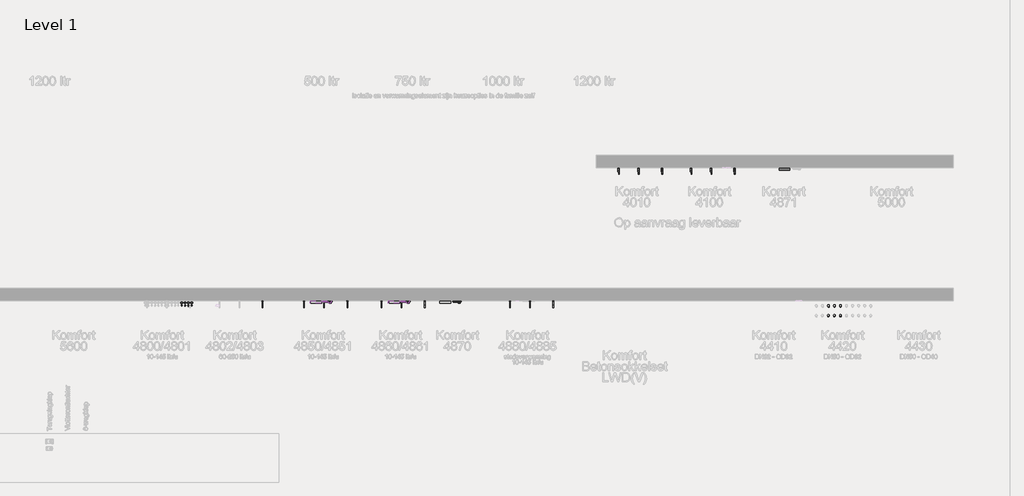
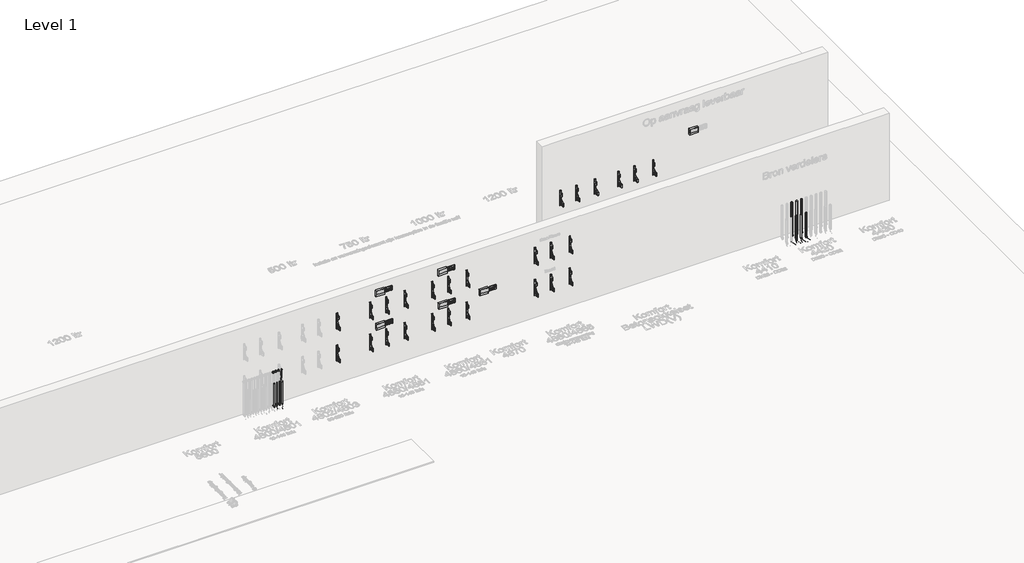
# One storey, part 8 of 34: 37 proxies, 25 pipe fittings, 24 pipe segments.
"""IFC4 building model written with IfcOpenShell, lengths in millimetres."""

from ifc_helpers import new_model, si_unit, point, frame, frame_2d, origin, place, context, project, spatial, circle_curve, trimmed, segment, composite_curve, outline, extrude, transform, mapped, element, save
from components import mechanical_equipment_e809440a, electrical_fixtures_0267594b, electrical_fixtures_cdb00edd, mechanical_equipment_2487834e, pipe_fitting_01076926, comfort_pipe_plus_d9ac523e, comfort_pipe_plus_d8c71379, comfort_pipe_plus_e869fb8a, curved_elbow_default_c54697c8, curved_elbow_default_545ca236

model = new_model("IFC4")

# Units and contexts
model_context = context("Model", 3, world=origin())
ifc_project = project(units=[si_unit("LENGTHUNIT", "METRE", prefix="MILLI")], contexts=[model_context])

# Site, building, storey
site = spatial("IfcSite", under=ifc_project)
building = spatial("IfcBuilding", under=site)
storey = spatial("IfcBuildingStorey", under=building, Name="Level 1", Elevation=0.0)

# Proxies
placement = place(None, origin())
mechanical_equipment_shape = mechanical_equipment_e809440a(model_context)
element("IfcBuildingElementProxy", 1, Name="400_56_KOMF_montagebeugel_2 : 400_56_KOMF_montagebeugel_2", ObjectType="400_56_KOMF_montagebeugel_2 : 400_56_KOMF_montagebeugel_2", at=placement, inside=storey, context=model_context, shape_type="MappedRepresentation", body=[
    mapped(mechanical_equipment_shape, transform((-8621.6827235, 7589.9863889, 1200.0), x_axis=(1.0, 0.0, 0.0), y_axis=(0.0, 0.0, 1.0), z_axis=(0.0, -1.0, 0.0))),
])
element("IfcBuildingElementProxy", 2, Name="400_56_KOMF_montagebeugel_2 : 400_56_KOMF_montagebeugel_2", ObjectType="400_56_KOMF_montagebeugel_2 : 400_56_KOMF_montagebeugel_2", at=placement, inside=storey, context=model_context, shape_type="MappedRepresentation", body=[
    mapped(mechanical_equipment_shape, transform((-8621.6827235, 7589.9863889, 500.0), x_axis=(1.0, 0.0, 0.0), y_axis=(0.0, 0.0, 1.0), z_axis=(0.0, -1.0, 0.0))),
])
element("IfcBuildingElementProxy", 3, Name="400_56_KOMF_montagebeugel_2 : 400_56_KOMF_montagebeugel_2", ObjectType="400_56_KOMF_montagebeugel_2 : 400_56_KOMF_montagebeugel_2", at=placement, inside=storey, context=model_context, shape_type="MappedRepresentation", body=[
    mapped(mechanical_equipment_shape, transform((-4531.8361822, 7589.9863889, 500.0), x_axis=(1.0, 0.0, 0.0), y_axis=(0.0, 0.0, 1.0), z_axis=(0.0, -1.0, 0.0))),
])
element("IfcBuildingElementProxy", 4, Name="400_56_KOMF_montagebeugel_2 : 400_56_KOMF_montagebeugel_2", ObjectType="400_56_KOMF_montagebeugel_2 : 400_56_KOMF_montagebeugel_2", at=placement, inside=storey, context=model_context, shape_type="MappedRepresentation", body=[
    mapped(mechanical_equipment_shape, transform((-4201.8361822, 7589.9863889, 500.0), x_axis=(1.0, 0.0, 0.0), y_axis=(0.0, 0.0, 1.0), z_axis=(0.0, -1.0, 0.0))),
])
element("IfcBuildingElementProxy", 5, Name="400_56_KOMF_montagebeugel_2 : 400_56_KOMF_montagebeugel_2", ObjectType="400_56_KOMF_montagebeugel_2 : 400_56_KOMF_montagebeugel_2", at=placement, inside=storey, context=model_context, shape_type="MappedRepresentation", body=[
    mapped(mechanical_equipment_shape, transform((-3816.8361822, 7589.9863889, 500.0), x_axis=(1.0, 0.0, 0.0), y_axis=(0.0, 0.0, 1.0), z_axis=(0.0, -1.0, 0.0))),
])
element("IfcBuildingElementProxy", 6, Name="400_56_KOMF_montagebeugel_2 : 400_56_KOMF_montagebeugel_2", ObjectType="400_56_KOMF_montagebeugel_2 : 400_56_KOMF_montagebeugel_2", at=placement, inside=storey, context=model_context, shape_type="MappedRepresentation", body=[
    mapped(mechanical_equipment_shape, transform((-4531.8361822, 7589.9863889, 1200.0), x_axis=(1.0, 0.0, 0.0), y_axis=(0.0, 0.0, 1.0), z_axis=(0.0, -1.0, 0.0))),
])
element("IfcBuildingElementProxy", 7, Name="400_56_KOMF_montagebeugel_2 : 400_56_KOMF_montagebeugel_2", ObjectType="400_56_KOMF_montagebeugel_2 : 400_56_KOMF_montagebeugel_2", at=placement, inside=storey, context=model_context, shape_type="MappedRepresentation", body=[
    mapped(mechanical_equipment_shape, transform((-4201.8361822, 7589.9863889, 1200.0), x_axis=(1.0, 0.0, 0.0), y_axis=(0.0, 0.0, 1.0), z_axis=(0.0, -1.0, 0.0))),
])
element("IfcBuildingElementProxy", 8, Name="400_56_KOMF_montagebeugel_2 : 400_56_KOMF_montagebeugel_2", ObjectType="400_56_KOMF_montagebeugel_2 : 400_56_KOMF_montagebeugel_2", at=placement, inside=storey, context=model_context, shape_type="MappedRepresentation", body=[
    mapped(mechanical_equipment_shape, transform((-3816.8361822, 7589.9863889, 1200.0), x_axis=(1.0, 0.0, 0.0), y_axis=(0.0, 0.0, 1.0), z_axis=(0.0, -1.0, 0.0))),
])
element("IfcBuildingElementProxy", 9, Name="400_56_KOMF_montagebeugel_2 : 400_56_KOMF_montagebeugel_2", ObjectType="400_56_KOMF_montagebeugel_2 : 400_56_KOMF_montagebeugel_2", at=placement, inside=storey, context=model_context, shape_type="MappedRepresentation", body=[
    mapped(mechanical_equipment_shape, transform((-6656.6827235, 7589.9863889, 1200.0), x_axis=(1.0, 0.0, 0.0), y_axis=(0.0, 0.0, 1.0), z_axis=(0.0, -1.0, 0.0))),
])
element("IfcBuildingElementProxy", 10, Name="400_56_KOMF_montagebeugel_2 : 400_56_KOMF_montagebeugel_2", ObjectType="400_56_KOMF_montagebeugel_2 : 400_56_KOMF_montagebeugel_2", at=placement, inside=storey, context=model_context, shape_type="MappedRepresentation", body=[
    mapped(mechanical_equipment_shape, transform((-6326.6827235, 7589.9863889, 1200.0), x_axis=(1.0, 0.0, 0.0), y_axis=(0.0, 0.0, 1.0), z_axis=(0.0, -1.0, 0.0))),
])
element("IfcBuildingElementProxy", 11, Name="400_56_KOMF_montagebeugel_2 : 400_56_KOMF_montagebeugel_2", ObjectType="400_56_KOMF_montagebeugel_2 : 400_56_KOMF_montagebeugel_2", at=placement, inside=storey, context=model_context, shape_type="MappedRepresentation", body=[
    mapped(mechanical_equipment_shape, transform((-5941.6827235, 7589.9863889, 1200.0), x_axis=(1.0, 0.0, 0.0), y_axis=(0.0, 0.0, 1.0), z_axis=(0.0, -1.0, 0.0))),
])
element("IfcBuildingElementProxy", 12, Name="400_56_KOMF_montagebeugel_2 : 400_56_KOMF_montagebeugel_2", ObjectType="400_56_KOMF_montagebeugel_2 : 400_56_KOMF_montagebeugel_2", at=placement, inside=storey, context=model_context, shape_type="MappedRepresentation", body=[
    mapped(mechanical_equipment_shape, transform((-6656.6827235, 7589.9863889, 500.0), x_axis=(1.0, 0.0, 0.0), y_axis=(0.0, 0.0, 1.0), z_axis=(0.0, -1.0, 0.0))),
])
element("IfcBuildingElementProxy", 13, Name="400_56_KOMF_montagebeugel_2 : 400_56_KOMF_montagebeugel_2", ObjectType="400_56_KOMF_montagebeugel_2 : 400_56_KOMF_montagebeugel_2", at=placement, inside=storey, context=model_context, shape_type="MappedRepresentation", body=[
    mapped(mechanical_equipment_shape, transform((-6326.6827235, 7589.9863889, 500.0), x_axis=(1.0, 0.0, 0.0), y_axis=(0.0, 0.0, 1.0), z_axis=(0.0, -1.0, 0.0))),
])
element("IfcBuildingElementProxy", 14, Name="400_56_KOMF_montagebeugel_2 : 400_56_KOMF_montagebeugel_2", ObjectType="400_56_KOMF_montagebeugel_2 : 400_56_KOMF_montagebeugel_2", at=placement, inside=storey, context=model_context, shape_type="MappedRepresentation", body=[
    mapped(mechanical_equipment_shape, transform((-5941.6827235, 7589.9863889, 500.0), x_axis=(1.0, 0.0, 0.0), y_axis=(0.0, 0.0, 1.0), z_axis=(0.0, -1.0, 0.0))),
])
element("IfcBuildingElementProxy", 15, Name="400_56_KOMF_montagebeugel_2 : 400_56_KOMF_montagebeugel_2", ObjectType="400_56_KOMF_montagebeugel_2 : 400_56_KOMF_montagebeugel_2", at=placement, inside=storey, context=model_context, shape_type="MappedRepresentation", body=[
    mapped(mechanical_equipment_shape, transform((-7936.6827235, 7589.9863889, 1200.0), x_axis=(1.0, 0.0, 0.0), y_axis=(0.0, 0.0, 1.0), z_axis=(0.0, -1.0, 0.0))),
])
element("IfcBuildingElementProxy", 16, Name="400_56_KOMF_montagebeugel_2 : 400_56_KOMF_montagebeugel_2", ObjectType="400_56_KOMF_montagebeugel_2 : 400_56_KOMF_montagebeugel_2", at=placement, inside=storey, context=model_context, shape_type="MappedRepresentation", body=[
    mapped(mechanical_equipment_shape, transform((-7606.6827235, 7589.9863889, 1200.0), x_axis=(1.0, 0.0, 0.0), y_axis=(0.0, 0.0, 1.0), z_axis=(0.0, -1.0, 0.0))),
])
element("IfcBuildingElementProxy", 17, Name="400_56_KOMF_montagebeugel_2 : 400_56_KOMF_montagebeugel_2", ObjectType="400_56_KOMF_montagebeugel_2 : 400_56_KOMF_montagebeugel_2", at=placement, inside=storey, context=model_context, shape_type="MappedRepresentation", body=[
    mapped(mechanical_equipment_shape, transform((-7221.6827235, 7589.9863889, 1200.0), x_axis=(1.0, 0.0, 0.0), y_axis=(0.0, 0.0, 1.0), z_axis=(0.0, -1.0, 0.0))),
])
element("IfcBuildingElementProxy", 18, Name="400_56_KOMF_montagebeugel_2 : 400_56_KOMF_montagebeugel_2", ObjectType="400_56_KOMF_montagebeugel_2 : 400_56_KOMF_montagebeugel_2", at=placement, inside=storey, context=model_context, shape_type="MappedRepresentation", body=[
    mapped(mechanical_equipment_shape, transform((-7936.6827235, 7589.9863889, 500.0), x_axis=(1.0, 0.0, 0.0), y_axis=(0.0, 0.0, 1.0), z_axis=(0.0, -1.0, 0.0))),
])
element("IfcBuildingElementProxy", 19, Name="400_56_KOMF_montagebeugel_2 : 400_56_KOMF_montagebeugel_2", ObjectType="400_56_KOMF_montagebeugel_2 : 400_56_KOMF_montagebeugel_2", at=placement, inside=storey, context=model_context, shape_type="MappedRepresentation", body=[
    mapped(mechanical_equipment_shape, transform((-7606.6827235, 7589.9863889, 500.0), x_axis=(1.0, 0.0, 0.0), y_axis=(0.0, 0.0, 1.0), z_axis=(0.0, -1.0, 0.0))),
])
element("IfcBuildingElementProxy", 20, Name="400_56_KOMF_montagebeugel_2 : 400_56_KOMF_montagebeugel_2", ObjectType="400_56_KOMF_montagebeugel_2 : 400_56_KOMF_montagebeugel_2", at=placement, inside=storey, context=model_context, shape_type="MappedRepresentation", body=[
    mapped(mechanical_equipment_shape, transform((-7221.6827235, 7589.9863889, 500.0), x_axis=(1.0, 0.0, 0.0), y_axis=(0.0, 0.0, 1.0), z_axis=(0.0, -1.0, 0.0))),
])
electrical_fixtures_shape = electrical_fixtures_0267594b(model_context)
element("IfcBuildingElementProxy", 21, Name="400_5-_KOMF_optimizer : Optimizer", ObjectType="400_5-_KOMF_optimizer : Optimizer", at=placement, inside=storey, context=model_context, shape_type="MappedRepresentation", body=[
    mapped(electrical_fixtures_shape, transform((-7834.0955637, 7589.9863889, 1629.4731013), x_axis=(1.0, 0.0, 0.0), y_axis=(0.0, 0.0, 1.0), z_axis=(0.0, -1.0, 0.0))),
])
element("IfcBuildingElementProxy", 22, Name="400_5-_KOMF_optimizer : Optimizer", ObjectType="400_5-_KOMF_optimizer : Optimizer", at=placement, inside=storey, context=model_context, shape_type="MappedRepresentation", body=[
    mapped(electrical_fixtures_shape, transform((-6544.0955637, 7589.9863889, 1629.4731013), x_axis=(1.0, 0.0, 0.0), y_axis=(0.0, 0.0, 1.0), z_axis=(0.0, -1.0, 0.0))),
])
element("IfcBuildingElementProxy", 23, Name="400_5-_KOMF_optimizer : Optimizer", ObjectType="400_5-_KOMF_optimizer : Optimizer", at=placement, inside=storey, context=model_context, shape_type="MappedRepresentation", body=[
    mapped(electrical_fixtures_shape, transform((-5689.3577971, 7589.9863889, 899.4731013), x_axis=(1.0, 0.0, 0.0), y_axis=(0.0, 0.0, 1.0), z_axis=(0.0, -1.0, 0.0))),
])
element("IfcBuildingElementProxy", 24, Name="400_5-_KOMF_optimizer : Optimizer", ObjectType="400_5-_KOMF_optimizer : Optimizer", at=placement, inside=storey, context=model_context, shape_type="MappedRepresentation", body=[
    mapped(electrical_fixtures_shape, transform((-7822.0066845, 7589.9863889, 899.4731013), x_axis=(1.0, 0.0, 0.0), y_axis=(0.0, 0.0, 1.0), z_axis=(0.0, -1.0, 0.0))),
])
element("IfcBuildingElementProxy", 25, Name="400_5-_KOMF_optimizer : Optimizer", ObjectType="400_5-_KOMF_optimizer : Optimizer", at=placement, inside=storey, context=model_context, shape_type="MappedRepresentation", body=[
    mapped(electrical_fixtures_shape, transform((-6532.0066845, 7589.9863889, 899.4731013), x_axis=(1.0, 0.0, 0.0), y_axis=(0.0, 0.0, 1.0), z_axis=(0.0, -1.0, 0.0))),
])
element("IfcBuildingElementProxy", 26, Name="400_5-_KOMF_optimizer : Optimizer", ObjectType="400_5-_KOMF_optimizer : Optimizer", at=placement, inside=storey, context=model_context, shape_type="MappedRepresentation", body=[
    mapped(electrical_fixtures_shape, transform((-84.0955637, 9789.9863889, 1111.4248649), x_axis=(1.0, 0.0, 0.0), y_axis=(0.0, 0.0, 1.0), z_axis=(0.0, -1.0, 0.0))),
])
electrical_fixtures_2_shape = electrical_fixtures_cdb00edd(model_context)
element("IfcBuildingElementProxy", 27, Name="400_5-_KOMF_optimizer_bediening : Optimizer bediening", ObjectType="400_5-_KOMF_optimizer_bediening : Optimizer bediening", at=placement, inside=storey, context=model_context, shape_type="MappedRepresentation", body=[
    mapped(electrical_fixtures_2_shape, transform((-7624.0955637, 7589.9863889, 1654.2230825), x_axis=(1.0, 0.0, 0.0), y_axis=(0.0, 0.0, 1.0), z_axis=(0.0, -1.0, 0.0))),
])
element("IfcBuildingElementProxy", 28, Name="400_5-_KOMF_optimizer_bediening : Optimizer bediening", ObjectType="400_5-_KOMF_optimizer_bediening : Optimizer bediening", at=placement, inside=storey, context=model_context, shape_type="MappedRepresentation", body=[
    mapped(electrical_fixtures_2_shape, transform((-6334.0955637, 7589.9863889, 1654.2230825), x_axis=(1.0, 0.0, 0.0), y_axis=(0.0, 0.0, 1.0), z_axis=(0.0, -1.0, 0.0))),
])
element("IfcBuildingElementProxy", 29, Name="400_5-_KOMF_optimizer_bediening : Optimizer bediening", ObjectType="400_5-_KOMF_optimizer_bediening : Optimizer bediening", at=placement, inside=storey, context=model_context, shape_type="MappedRepresentation", body=[
    mapped(electrical_fixtures_2_shape, transform((-5479.3577971, 7589.9863889, 924.2230825), x_axis=(1.0, 0.0, 0.0), y_axis=(0.0, 0.0, 1.0), z_axis=(0.0, -1.0, 0.0))),
])
element("IfcBuildingElementProxy", 30, Name="400_5-_KOMF_optimizer_bediening : Optimizer bediening", ObjectType="400_5-_KOMF_optimizer_bediening : Optimizer bediening", at=placement, inside=storey, context=model_context, shape_type="MappedRepresentation", body=[
    mapped(electrical_fixtures_2_shape, transform((-7612.0066845, 7589.9863889, 924.2230825), x_axis=(1.0, 0.0, 0.0), y_axis=(0.0, 0.0, 1.0), z_axis=(0.0, -1.0, 0.0))),
])
element("IfcBuildingElementProxy", 31, Name="400_5-_KOMF_optimizer_bediening : Optimizer bediening", ObjectType="400_5-_KOMF_optimizer_bediening : Optimizer bediening", at=placement, inside=storey, context=model_context, shape_type="MappedRepresentation", body=[
    mapped(electrical_fixtures_2_shape, transform((-6322.0066845, 7589.9863889, 924.2230825), x_axis=(1.0, 0.0, 0.0), y_axis=(0.0, 0.0, 1.0), z_axis=(0.0, -1.0, 0.0))),
])
mechanical_equipment_2_shape = mechanical_equipment_2487834e(model_context)
element("IfcBuildingElementProxy", 32, Name="400_56_KOMF_montagebeugel : 400_56_KOMF_montagebeugel", ObjectType="400_56_KOMF_montagebeugel : 400_56_KOMF_montagebeugel", at=placement, inside=storey, context=model_context, shape_type="MappedRepresentation", body=[
    mapped(mechanical_equipment_2_shape, transform((-2737.0989887, 9789.9863889, 500.0), x_axis=(1.0, 0.0, 0.0), y_axis=(0.0, 0.0, 1.0), z_axis=(0.0, -1.0, 0.0))),
])
element("IfcBuildingElementProxy", 33, Name="400_56_KOMF_montagebeugel : 400_56_KOMF_montagebeugel", ObjectType="400_56_KOMF_montagebeugel : 400_56_KOMF_montagebeugel", at=placement, inside=storey, context=model_context, shape_type="MappedRepresentation", body=[
    mapped(mechanical_equipment_2_shape, transform((-2407.0989887, 9789.9863889, 500.0), x_axis=(1.0, 0.0, 0.0), y_axis=(0.0, 0.0, 1.0), z_axis=(0.0, -1.0, 0.0))),
])
element("IfcBuildingElementProxy", 34, Name="400_56_KOMF_montagebeugel : 400_56_KOMF_montagebeugel", ObjectType="400_56_KOMF_montagebeugel : 400_56_KOMF_montagebeugel", at=placement, inside=storey, context=model_context, shape_type="MappedRepresentation", body=[
    mapped(mechanical_equipment_2_shape, transform((-2022.0989887, 9789.9863889, 500.0), x_axis=(1.0, 0.0, 0.0), y_axis=(0.0, 0.0, 1.0), z_axis=(0.0, -1.0, 0.0))),
])
element("IfcBuildingElementProxy", 35, Name="400_56_KOMF_montagebeugel : 400_56_KOMF_montagebeugel", ObjectType="400_56_KOMF_montagebeugel : 400_56_KOMF_montagebeugel", at=placement, inside=storey, context=model_context, shape_type="MappedRepresentation", body=[
    mapped(mechanical_equipment_2_shape, transform((-1537.0989887, 9789.9863889, 500.0), x_axis=(1.0, 0.0, 0.0), y_axis=(0.0, 0.0, 1.0), z_axis=(0.0, -1.0, 0.0))),
])
element("IfcBuildingElementProxy", 36, Name="400_56_KOMF_montagebeugel : 400_56_KOMF_montagebeugel", ObjectType="400_56_KOMF_montagebeugel : 400_56_KOMF_montagebeugel", at=placement, inside=storey, context=model_context, shape_type="MappedRepresentation", body=[
    mapped(mechanical_equipment_2_shape, transform((-1207.0989887, 9789.9863889, 500.0), x_axis=(1.0, 0.0, 0.0), y_axis=(0.0, 0.0, 1.0), z_axis=(0.0, -1.0, 0.0))),
])
element("IfcBuildingElementProxy", 37, Name="400_56_KOMF_montagebeugel : 400_56_KOMF_montagebeugel", ObjectType="400_56_KOMF_montagebeugel : 400_56_KOMF_montagebeugel", at=placement, inside=storey, context=model_context, shape_type="MappedRepresentation", body=[
    mapped(mechanical_equipment_2_shape, transform((-822.0989887, 9789.9863889, 500.0), x_axis=(1.0, 0.0, 0.0), y_axis=(0.0, 0.0, 1.0), z_axis=(0.0, -1.0, 0.0))),
])

# Pipe fittings
pipe_fitting_shape = pipe_fitting_01076926(model_context)
element("IfcPipeFitting", 38, ObjectType="400_5-_Uponor Vario klemringschroefkoppeling Euro : klemringschroefkoppeling s=2mm", at=placement, inside=storey, context=model_context, shape_type="MappedRepresentation", body=[
    mapped(pipe_fitting_shape, transform((-9959.1827235, 7552.9863889, 730.0), x_axis=(0.0, 0.0, 1.0), y_axis=(1.0, 0.0, 0.0), z_axis=(0.0, 1.0, 0.0))),
])
element("IfcPipeFitting", 39, ObjectType="400_5-_Uponor Vario klemringschroefkoppeling Euro : klemringschroefkoppeling s=2mm", at=placement, inside=storey, context=model_context, shape_type="MappedRepresentation", body=[
    mapped(pipe_fitting_shape, transform((-9904.1827235, 7552.9863889, 730.0), x_axis=(0.0, 0.0, 1.0), y_axis=(1.0, 0.0, 0.0), z_axis=(0.0, 1.0, 0.0))),
])
element("IfcPipeFitting", 40, ObjectType="400_5-_Uponor Vario klemringschroefkoppeling Euro : klemringschroefkoppeling s=2mm", at=placement, inside=storey, context=model_context, shape_type="MappedRepresentation", body=[
    mapped(pipe_fitting_shape, transform((-9849.1827235, 7552.9863889, 730.0), x_axis=(0.0, 0.0, 1.0), y_axis=(1.0, 0.0, 0.0), z_axis=(0.0, 1.0, 0.0))),
])
element("IfcPipeFitting", 41, ObjectType="400_5-_Uponor Vario klemringschroefkoppeling Euro : klemringschroefkoppeling s=2mm", at=placement, inside=storey, context=model_context, shape_type="MappedRepresentation", body=[
    mapped(pipe_fitting_shape, transform((-9794.1827235, 7552.9863889, 730.0), x_axis=(0.0, 0.0, 1.0), y_axis=(1.0, 0.0, 0.0), z_axis=(0.0, 1.0, 0.0))),
])
comfort_pipe_plus_shape = comfort_pipe_plus_d9ac523e(model_context)
element("IfcPipeFitting", 42, ObjectType="400_5-_Uponor_curved_Elbow : Comfort pipe PLUS", at=placement, inside=storey, context=model_context, shape_type="MappedRepresentation", body=[
    mapped(comfort_pipe_plus_shape, transform((-9959.1827235, 7552.9863889, -43.6490683), x_axis=(0.22560146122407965, 0.9742196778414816, 0.0), y_axis=(0.0, 0.0, 1.0), z_axis=(0.9742196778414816, -0.22560146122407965, 0.0))),
])
element("IfcPipeFitting", 43, ObjectType="400_5-_Uponor_curved_Elbow : Comfort pipe PLUS", at=placement, inside=storey, context=model_context, shape_type="MappedRepresentation", body=[
    mapped(comfort_pipe_plus_shape, transform((-9904.1827235, 7552.9863889, -43.6490683), x_axis=(0.22560146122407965, 0.9742196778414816, 0.0), y_axis=(0.0, 0.0, 1.0), z_axis=(0.9742196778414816, -0.22560146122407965, 0.0))),
])
element("IfcPipeFitting", 44, ObjectType="400_5-_Uponor_curved_Elbow : Comfort pipe PLUS", at=placement, inside=storey, context=model_context, shape_type="MappedRepresentation", body=[
    mapped(comfort_pipe_plus_shape, transform((-9849.1827235, 7552.9863889, -43.6490683), x_axis=(0.22560146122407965, 0.9742196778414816, 0.0), y_axis=(0.0, 0.0, 1.0), z_axis=(0.9742196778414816, -0.22560146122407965, 0.0))),
])
element("IfcPipeFitting", 45, ObjectType="400_5-_Uponor_curved_Elbow : Comfort pipe PLUS", at=placement, inside=storey, context=model_context, shape_type="MappedRepresentation", body=[
    mapped(comfort_pipe_plus_shape, transform((-9794.1827235, 7552.9863889, -43.6490683), x_axis=(0.22560146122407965, 0.9742196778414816, 0.0), y_axis=(0.0, 0.0, 1.0), z_axis=(0.9742196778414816, -0.22560146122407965, 0.0))),
])
comfort_pipe_plus_2_shape = comfort_pipe_plus_d8c71379(model_context)
element("IfcPipeFitting", 46, ObjectType="400_5-_Uponor_curved_Elbow : Comfort pipe PLUS", at=placement, inside=storey, context=model_context, shape_type="MappedRepresentation", body=[
    mapped(comfort_pipe_plus_2_shape, transform((-9821.6827235, 7434.2325431, -43.6490683), x_axis=(-0.225601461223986, -0.9742196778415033, 0.0), y_axis=(0.9742196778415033, -0.225601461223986, 0.0), z_axis=(0.0, 0.0, 1.0))),
])
element("IfcPipeFitting", 47, ObjectType="400_5-_Uponor_curved_Elbow : Comfort pipe PLUS", at=placement, inside=storey, context=model_context, shape_type="MappedRepresentation", body=[
    mapped(comfort_pipe_plus_2_shape, transform((-9876.6827235, 7434.2325431, -43.6490683), x_axis=(-0.225601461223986, -0.9742196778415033, 0.0), y_axis=(0.9742196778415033, -0.225601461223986, 0.0), z_axis=(0.0, 0.0, 1.0))),
])
element("IfcPipeFitting", 48, ObjectType="400_5-_Uponor_curved_Elbow : Comfort pipe PLUS", at=placement, inside=storey, context=model_context, shape_type="MappedRepresentation", body=[
    mapped(comfort_pipe_plus_2_shape, transform((-9931.6827235, 7434.2325431, -43.6490683), x_axis=(-0.225601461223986, -0.9742196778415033, 0.0), y_axis=(0.9742196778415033, -0.225601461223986, 0.0), z_axis=(0.0, 0.0, 1.0))),
])
element("IfcPipeFitting", 49, ObjectType="400_5-_Uponor_curved_Elbow : Comfort pipe PLUS", at=placement, inside=storey, context=model_context, shape_type="MappedRepresentation", body=[
    mapped(comfort_pipe_plus_2_shape, transform((-9986.6827235, 7434.2325431, -43.6490683), x_axis=(-0.225601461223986, -0.9742196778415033, 0.0), y_axis=(0.9742196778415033, -0.225601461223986, 0.0), z_axis=(0.0, 0.0, 1.0))),
])
comfort_pipe_plus_3_shape = comfort_pipe_plus_e869fb8a(model_context)
element("IfcPipeFitting", 50, ObjectType="400_5-_Uponor_curved_Elbow : Comfort pipe PLUS", at=placement, inside=storey, context=model_context, shape_type="MappedRepresentation", body=[
    mapped(comfort_pipe_plus_3_shape, transform((-9794.1827235, 7509.9863889, -43.6490683), x_axis=(0.0, 1.0, 0.0), y_axis=(0.0, 0.0, 1.0), z_axis=(1.0, 0.0, 0.0))),
])
element("IfcPipeFitting", 51, ObjectType="400_5-_Uponor_curved_Elbow : Comfort pipe PLUS", at=placement, inside=storey, context=model_context, shape_type="MappedRepresentation", body=[
    mapped(comfort_pipe_plus_3_shape, transform((-9849.1827235, 7509.9863889, -43.6490683), x_axis=(0.0, 1.0, 0.0), y_axis=(0.0, 0.0, 1.0), z_axis=(1.0, 0.0, 0.0))),
])
element("IfcPipeFitting", 52, ObjectType="400_5-_Uponor_curved_Elbow : Comfort pipe PLUS", at=placement, inside=storey, context=model_context, shape_type="MappedRepresentation", body=[
    mapped(comfort_pipe_plus_3_shape, transform((-9904.1827235, 7509.9863889, -43.6490683), x_axis=(0.0, 1.0, 0.0), y_axis=(0.0, 0.0, 1.0), z_axis=(1.0, 0.0, 0.0))),
])
element("IfcPipeFitting", 53, ObjectType="400_5-_Uponor_curved_Elbow : Comfort pipe PLUS", at=placement, inside=storey, context=model_context, shape_type="MappedRepresentation", body=[
    mapped(comfort_pipe_plus_3_shape, transform((-9959.1827235, 7509.9863889, -43.6490683), x_axis=(0.0, 1.0, 0.0), y_axis=(0.0, 0.0, 1.0), z_axis=(1.0, 0.0, 0.0))),
])
curved_elbow_default_shape = curved_elbow_default_c54697c8(model_context)
element("IfcPipeFitting", 54, ObjectType="curved_Elbow : Default", at=placement, inside=storey, context=model_context, shape_type="MappedRepresentation", body=[
    mapped(curved_elbow_default_shape, transform((931.1365526, 7507.9863889, -60.0), x_axis=(0.0, 0.0, -1.0), y_axis=(0.20791169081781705, -0.9781476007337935, 0.0), z_axis=(-0.9781476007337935, -0.20791169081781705, 0.0))),
])
element("IfcPipeFitting", 55, ObjectType="curved_Elbow : Default", at=placement, inside=storey, context=model_context, shape_type="MappedRepresentation", body=[
    mapped(curved_elbow_default_shape, transform((931.1365526, 7347.9863889, -60.0), x_axis=(0.0, 0.0, -1.0), y_axis=(0.0, -1.0, 0.0), z_axis=(-1.0, 0.0, 0.0))),
])
element("IfcPipeFitting", 56, ObjectType="curved_Elbow : Default", at=placement, inside=storey, context=model_context, shape_type="MappedRepresentation", body=[
    mapped(curved_elbow_default_shape, transform((831.1365526, 7507.9863889, -60.0), x_axis=(0.0, 0.0, -1.0), y_axis=(0.20791169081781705, -0.9781476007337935, 0.0), z_axis=(-0.9781476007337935, -0.20791169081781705, 0.0))),
])
element("IfcPipeFitting", 57, ObjectType="curved_Elbow : Default", at=placement, inside=storey, context=model_context, shape_type="MappedRepresentation", body=[
    mapped(curved_elbow_default_shape, transform((831.1365526, 7347.9863889, -60.0), x_axis=(0.0, 0.0, -1.0), y_axis=(0.0, -1.0, 0.0), z_axis=(-1.0, 0.0, 0.0))),
])
element("IfcPipeFitting", 58, ObjectType="curved_Elbow : Default", at=placement, inside=storey, context=model_context, shape_type="MappedRepresentation", body=[
    mapped(curved_elbow_default_shape, transform((731.1365526, 7507.9863889, -60.0), x_axis=(0.0, 0.0, -1.0), y_axis=(0.20791169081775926, -0.9781476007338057, 0.0), z_axis=(-0.9781476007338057, -0.20791169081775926, 0.0))),
])
element("IfcPipeFitting", 59, ObjectType="curved_Elbow : Default", at=placement, inside=storey, context=model_context, shape_type="MappedRepresentation", body=[
    mapped(curved_elbow_default_shape, transform((731.1365526, 7347.9863889, -60.0), x_axis=(0.0, 0.0, -1.0), y_axis=(0.0, -1.0, 0.0), z_axis=(-1.0, 0.0, 0.0))),
])
curved_elbow_default_2_shape = curved_elbow_default_545ca236(model_context)
element("IfcPipeFitting", 60, ObjectType="curved_Elbow : Default", at=placement, inside=storey, context=model_context, shape_type="MappedRepresentation", body=[
    mapped(curved_elbow_default_2_shape, transform((981.1365526, 7272.7548834, -60.0), x_axis=(0.0, 1.0, 0.0), y_axis=(-1.0, 0.0, 0.0), z_axis=(0.0, 0.0, 1.0))),
])
element("IfcPipeFitting", 61, ObjectType="curved_Elbow : Default", at=placement, inside=storey, context=model_context, shape_type="MappedRepresentation", body=[
    mapped(curved_elbow_default_2_shape, transform((881.1365526, 7272.7548834, -60.0), x_axis=(0.0, 1.0, 0.0), y_axis=(-1.0, 0.0, 0.0), z_axis=(0.0, 0.0, 1.0))),
])
element("IfcPipeFitting", 62, ObjectType="curved_Elbow : Default", at=placement, inside=storey, context=model_context, shape_type="MappedRepresentation", body=[
    mapped(curved_elbow_default_2_shape, transform((781.1365526, 7272.7548834, -60.0), x_axis=(0.0, 1.0, 0.0), y_axis=(-1.0, 0.0, 0.0), z_axis=(0.0, 0.0, 1.0))),
])

# Pipe segments
element("IfcPipeSegment", 63, ObjectType="Uponor Comfort Pipe PLUS / VVL", at=placement, inside=storey, context=model_context, shape_type="SweptSolid", body=[
    extrude(outline(composite_curve([segment(trimmed(circle_curve(frame_2d((-43.6490683, -9794.1827235)), 8.5), [point((-43.6490683, -9802.6827235))], [point((-52.1490683, -9794.1827235))], False, "CARTESIAN"), True, "CONTINUOUS"), segment(trimmed(circle_curve(frame_2d((-43.6490683, -9794.1827235)), 8.5), [point((-52.1490683, -9794.1827235))], [point((-43.6490683, -9785.6827235))], False, "CARTESIAN"), True, "CONTINUOUS"), segment(trimmed(circle_curve(frame_2d((-43.6490683, -9794.1827235)), 8.5), [point((-43.6490683, -9785.6827235))], [point((-35.1490683, -9794.1827235))], False, "CARTESIAN"), True, "CONTINUOUS"), segment(trimmed(circle_curve(frame_2d((-43.6490683, -9794.1827235)), 8.5), [point((-35.1490683, -9794.1827235))], [point((-43.6490683, -9802.6827235))], False, "CARTESIAN"), True, "CONTINUOUS")], self_intersect=False)), frame((0.0, 7193.8942465, 0.0), z_axis=(0.0, 1.0, 0.0), x_axis=(0.0, 0.0, 1.0)), (0.0, 0.0, 1.0), 245.9527973),
])
element("IfcPipeSegment", 64, ObjectType="Uponor Comfort Pipe PLUS / VVL", at=placement, inside=storey, context=model_context, shape_type="SweptSolid", body=[
    extrude(outline(composite_curve([segment(trimmed(circle_curve(frame_2d((-43.6490683, -9821.6827235)), 8.5), [point((-43.6490683, -9830.1827235))], [point((-52.1490683, -9821.6827235))], False, "CARTESIAN"), True, "CONTINUOUS"), segment(trimmed(circle_curve(frame_2d((-43.6490683, -9821.6827235)), 8.5), [point((-52.1490683, -9821.6827235))], [point((-43.6490683, -9813.1827235))], False, "CARTESIAN"), True, "CONTINUOUS"), segment(trimmed(circle_curve(frame_2d((-43.6490683, -9821.6827235)), 8.5), [point((-43.6490683, -9813.1827235))], [point((-35.1490683, -9821.6827235))], False, "CARTESIAN"), True, "CONTINUOUS"), segment(trimmed(circle_curve(frame_2d((-43.6490683, -9821.6827235)), 8.5), [point((-35.1490683, -9821.6827235))], [point((-43.6490683, -9830.1827235))], False, "CARTESIAN"), True, "CONTINUOUS")], self_intersect=False)), frame((0.0, 7193.8942465, 0.0), z_axis=(0.0, 1.0, 0.0), x_axis=(0.0, 0.0, 1.0)), (0.0, 0.0, 1.0), 232.339135),
])
element("IfcPipeSegment", 65, ObjectType="Uponor Comfort Pipe PLUS / VVL", at=placement, inside=storey, context=model_context, shape_type="SweptSolid", body=[
    extrude(outline(composite_curve([segment(trimmed(circle_curve(frame_2d((0.0, -8.5)), 8.5), [point((-8.5, -8.5))], [point((0.0, 0.0))], False, "CARTESIAN"), True, "CONTINUOUS"), segment(trimmed(circle_curve(frame_2d((0.0, -8.5)), 8.5), [point((0.0, 0.0))], [point((8.5, -8.5))], False, "CARTESIAN"), True, "CONTINUOUS"), segment(trimmed(circle_curve(frame_2d((0.0, -8.5)), 8.5), [point((8.5, -8.5))], [point((0.0, -17.0))], False, "CARTESIAN"), True, "CONTINUOUS"), segment(trimmed(circle_curve(frame_2d((0.0, -8.5)), 8.5), [point((0.0, -17.0))], [point((-8.5, -8.5))], False, "CARTESIAN"), True, "CONTINUOUS")], self_intersect=False)), frame((-9819.878101, 7442.0254837, -52.1490683), z_axis=(0.22560146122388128, 0.9742196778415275, 0.0), x_axis=(0.9742196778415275, -0.22560146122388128, 0.0)), (0.0, 0.0, 1.0), 43.897212),
])
element("IfcPipeSegment", 66, ObjectType="Uponor Comfort Pipe PLUS / VVL", at=placement, inside=storey, context=model_context, shape_type="SweptSolid", body=[
    extrude(outline(composite_curve([segment(trimmed(circle_curve(frame_2d((-9794.1827235, 7552.9863889)), 8.5), [point((-9802.6827235, 7552.9863889))], [point((-9794.1827235, 7561.4863889))], False, "CARTESIAN"), True, "CONTINUOUS"), segment(trimmed(circle_curve(frame_2d((-9794.1827235, 7552.9863889)), 8.5), [point((-9794.1827235, 7561.4863889))], [point((-9785.6827235, 7552.9863889))], False, "CARTESIAN"), True, "CONTINUOUS"), segment(trimmed(circle_curve(frame_2d((-9794.1827235, 7552.9863889)), 8.5), [point((-9785.6827235, 7552.9863889))], [point((-9794.1827235, 7544.4863889))], False, "CARTESIAN"), True, "CONTINUOUS"), segment(trimmed(circle_curve(frame_2d((-9794.1827235, 7552.9863889)), 8.5), [point((-9794.1827235, 7544.4863889))], [point((-9802.6827235, 7552.9863889))], False, "CARTESIAN"), True, "CONTINUOUS")], self_intersect=False)), frame((0.0, 0.0, 26.3509317), z_axis=(0.0, 0.0, 1.0), x_axis=(1.0, 0.0, 0.0)), (0.0, 0.0, 1.0), 703.6490683),
])
element("IfcPipeSegment", 67, ObjectType="Uponor Comfort Pipe PLUS / VVL", at=placement, inside=storey, context=model_context, shape_type="SweptSolid", body=[
    extrude(outline(composite_curve([segment(trimmed(circle_curve(frame_2d((0.0, -8.5)), 8.5), [point((8.5, -8.5))], [point((0.0, -17.0))], False, "CARTESIAN"), True, "CONTINUOUS"), segment(trimmed(circle_curve(frame_2d((0.0, -8.5)), 8.5), [point((0.0, -17.0))], [point((-8.5, -8.5))], False, "CARTESIAN"), True, "CONTINUOUS"), segment(trimmed(circle_curve(frame_2d((0.0, -8.5)), 8.5), [point((-8.5, -8.5))], [point((0.0, 0.0))], False, "CARTESIAN"), True, "CONTINUOUS"), segment(trimmed(circle_curve(frame_2d((0.0, -8.5)), 8.5), [point((0.0, 0.0))], [point((8.5, -8.5))], False, "CARTESIAN"), True, "CONTINUOUS")], self_intersect=False)), frame((-9794.1827235, 7518.346892, 26.5051725), z_axis=(0.0, -0.00176875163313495, 0.9999984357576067), x_axis=(1.0, 0.0, 0.0)), (0.0, 0.0, 1.0), 486.5106229),
])
element("IfcPipeSegment", 68, ObjectType="Uponor Comfort Pipe PLUS / VVL", at=placement, inside=storey, context=model_context, shape_type="SweptSolid", body=[
    extrude(outline(composite_curve([segment(trimmed(circle_curve(frame_2d((0.0, -8.5)), 8.5), [point((8.5, -8.5))], [point((0.0, -17.0))], False, "CARTESIAN"), True, "CONTINUOUS"), segment(trimmed(circle_curve(frame_2d((0.0, -8.5)), 8.5), [point((0.0, -17.0))], [point((-8.5, -8.5))], False, "CARTESIAN"), True, "CONTINUOUS"), segment(trimmed(circle_curve(frame_2d((0.0, -8.5)), 8.5), [point((-8.5, -8.5))], [point((0.0, 0.0))], False, "CARTESIAN"), True, "CONTINUOUS"), segment(trimmed(circle_curve(frame_2d((0.0, -8.5)), 8.5), [point((0.0, 0.0))], [point((8.5, -8.5))], False, "CARTESIAN"), True, "CONTINUOUS")], self_intersect=False)), frame((-9849.1827235, 7518.346892, 26.5051725), z_axis=(0.0, -0.001768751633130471, 0.9999984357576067), x_axis=(1.0, 0.0, 0.0)), (0.0, 0.0, 1.0), 486.5106229),
])
element("IfcPipeSegment", 69, ObjectType="Uponor Comfort Pipe PLUS / VVL", at=placement, inside=storey, context=model_context, shape_type="SweptSolid", body=[
    extrude(outline(composite_curve([segment(trimmed(circle_curve(frame_2d((0.0, -8.5)), 8.5), [point((8.5, -8.5))], [point((0.0, -17.0))], False, "CARTESIAN"), True, "CONTINUOUS"), segment(trimmed(circle_curve(frame_2d((0.0, -8.5)), 8.5), [point((0.0, -17.0))], [point((-8.5, -8.5))], False, "CARTESIAN"), True, "CONTINUOUS"), segment(trimmed(circle_curve(frame_2d((0.0, -8.5)), 8.5), [point((-8.5, -8.5))], [point((0.0, 0.0))], False, "CARTESIAN"), True, "CONTINUOUS"), segment(trimmed(circle_curve(frame_2d((0.0, -8.5)), 8.5), [point((0.0, 0.0))], [point((8.5, -8.5))], False, "CARTESIAN"), True, "CONTINUOUS")], self_intersect=False)), frame((-9904.1827235, 7518.346892, 26.5051725), z_axis=(0.0, -0.0017687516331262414, 0.9999984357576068), x_axis=(1.0, 0.0, 0.0)), (0.0, 0.0, 1.0), 486.5106229),
])
element("IfcPipeSegment", 70, ObjectType="Uponor Comfort Pipe PLUS / VVL", at=placement, inside=storey, context=model_context, shape_type="SweptSolid", body=[
    extrude(outline(composite_curve([segment(trimmed(circle_curve(frame_2d((0.0, -8.5)), 8.5), [point((8.5, -8.5))], [point((0.0, -17.0))], False, "CARTESIAN"), True, "CONTINUOUS"), segment(trimmed(circle_curve(frame_2d((0.0, -8.5)), 8.5), [point((0.0, -17.0))], [point((-8.5, -8.5))], False, "CARTESIAN"), True, "CONTINUOUS"), segment(trimmed(circle_curve(frame_2d((0.0, -8.5)), 8.5), [point((-8.5, -8.5))], [point((0.0, 0.0))], False, "CARTESIAN"), True, "CONTINUOUS"), segment(trimmed(circle_curve(frame_2d((0.0, -8.5)), 8.5), [point((0.0, 0.0))], [point((8.5, -8.5))], False, "CARTESIAN"), True, "CONTINUOUS")], self_intersect=False)), frame((-9959.1827235, 7518.346892, 26.5051725), z_axis=(0.0, -0.0017687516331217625, 0.9999984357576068), x_axis=(1.0, 0.0, 0.0)), (0.0, 0.0, 1.0), 486.5106229),
])
element("IfcPipeSegment", 71, ObjectType="PE", at=placement, inside=storey, context=model_context, shape_type="SweptSolid", body=[
    extrude(outline(composite_curve([segment(trimmed(circle_curve(frame_2d((0.0, -16.0)), 16.0), [point((-16.0, -16.0))], [point((0.0, 0.0))], False, "CARTESIAN"), True, "CONTINUOUS"), segment(trimmed(circle_curve(frame_2d((0.0, -16.0)), 16.0), [point((0.0, 0.0))], [point((16.0, -16.0))], False, "CARTESIAN"), True, "CONTINUOUS"), segment(trimmed(circle_curve(frame_2d((0.0, -16.0)), 16.0), [point((16.0, -16.0))], [point((0.0, -32.0))], False, "CARTESIAN"), True, "CONTINUOUS"), segment(trimmed(circle_curve(frame_2d((0.0, -16.0)), 16.0), [point((0.0, -32.0))], [point((-16.0, -16.0))], False, "CARTESIAN"), True, "CONTINUOUS")], self_intersect=False)), frame((979.0605747, 7282.5215917, -76.0), z_axis=(-0.2079116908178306, 0.9781476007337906, 0.0), x_axis=(0.9781476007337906, 0.2079116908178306, 0.0)), (0.0, 0.0, 1.0), 135.5018149),
])
element("IfcPipeSegment", 72, ObjectType="PE", at=placement, inside=storey, context=model_context, shape_type="SweptSolid", body=[
    extrude(outline(composite_curve([segment(trimmed(circle_curve(frame_2d((-60.0, 981.1365526)), 16.0), [point((-60.0, 997.1365526))], [point((-44.0, 981.1365526))], False, "CARTESIAN"), True, "CONTINUOUS"), segment(trimmed(circle_curve(frame_2d((-60.0, 981.1365526)), 16.0), [point((-44.0, 981.1365526))], [point((-60.0, 965.1365526))], False, "CARTESIAN"), True, "CONTINUOUS"), segment(trimmed(circle_curve(frame_2d((-60.0, 981.1365526)), 16.0), [point((-60.0, 965.1365526))], [point((-76.0, 981.1365526))], False, "CARTESIAN"), True, "CONTINUOUS"), segment(trimmed(circle_curve(frame_2d((-60.0, 981.1365526)), 16.0), [point((-76.0, 981.1365526))], [point((-60.0, 997.1365526))], False, "CARTESIAN"), True, "CONTINUOUS")], self_intersect=False)), frame((0.0, 7133.7372351, 0.0), z_axis=(0.0, 1.0, 0.0), x_axis=(0.0, 0.0, 1.0)), (0.0, 0.0, 1.0), 129.0327459),
])
element("IfcPipeSegment", 73, ObjectType="PE", at=placement, inside=storey, context=model_context, shape_type="SweptSolid", body=[
    extrude(outline(composite_curve([segment(trimmed(circle_curve(frame_2d((931.1365526, 7507.9863889)), 16.0), [point((947.1365526, 7507.9863889))], [point((931.1365526, 7491.9863889))], False, "CARTESIAN"), True, "CONTINUOUS"), segment(trimmed(circle_curve(frame_2d((931.1365526, 7507.9863889)), 16.0), [point((931.1365526, 7491.9863889))], [point((915.1365526, 7507.9863889))], False, "CARTESIAN"), True, "CONTINUOUS"), segment(trimmed(circle_curve(frame_2d((931.1365526, 7507.9863889)), 16.0), [point((915.1365526, 7507.9863889))], [point((931.1365526, 7523.9863889))], False, "CARTESIAN"), True, "CONTINUOUS"), segment(trimmed(circle_curve(frame_2d((931.1365526, 7507.9863889)), 16.0), [point((931.1365526, 7523.9863889))], [point((947.1365526, 7507.9863889))], False, "CARTESIAN"), True, "CONTINUOUS")], self_intersect=False)), frame((0.0, 0.0, 35.0), z_axis=(0.0, 0.0, 1.0), x_axis=(1.0, 0.0, 0.0)), (0.0, 0.0, 1.0), 691.7267081),
])
element("IfcPipeSegment", 74, ObjectType="PE", at=placement, inside=storey, context=model_context, shape_type="SweptSolid", body=[
    extrude(outline(composite_curve([segment(trimmed(circle_curve(frame_2d((-60.0, 931.1365526)), 16.0), [point((-60.0, 915.1365526))], [point((-76.0, 931.1365526))], False, "CARTESIAN"), True, "CONTINUOUS"), segment(trimmed(circle_curve(frame_2d((-60.0, 931.1365526)), 16.0), [point((-76.0, 931.1365526))], [point((-60.0, 947.1365526))], False, "CARTESIAN"), True, "CONTINUOUS"), segment(trimmed(circle_curve(frame_2d((-60.0, 931.1365526)), 16.0), [point((-60.0, 947.1365526))], [point((-44.0, 931.1365526))], False, "CARTESIAN"), True, "CONTINUOUS"), segment(trimmed(circle_curve(frame_2d((-60.0, 931.1365526)), 16.0), [point((-44.0, 931.1365526))], [point((-60.0, 915.1365526))], False, "CARTESIAN"), True, "CONTINUOUS")], self_intersect=False)), frame((0.0, 7133.7372351, 0.0), z_axis=(0.0, 1.0, 0.0), x_axis=(0.0, 0.0, 1.0)), (0.0, 0.0, 1.0), 119.2491538),
])
element("IfcPipeSegment", 75, ObjectType="PE", at=placement, inside=storey, context=model_context, shape_type="SweptSolid", body=[
    extrude(outline(composite_curve([segment(trimmed(circle_curve(frame_2d((931.1365526, 7347.9863889)), 16.0), [point((947.1365526, 7347.9863889))], [point((931.1365526, 7331.9863889))], False, "CARTESIAN"), True, "CONTINUOUS"), segment(trimmed(circle_curve(frame_2d((931.1365526, 7347.9863889)), 16.0), [point((931.1365526, 7331.9863889))], [point((915.1365526, 7347.9863889))], False, "CARTESIAN"), True, "CONTINUOUS"), segment(trimmed(circle_curve(frame_2d((931.1365526, 7347.9863889)), 16.0), [point((915.1365526, 7347.9863889))], [point((931.1365526, 7363.9863889))], False, "CARTESIAN"), True, "CONTINUOUS"), segment(trimmed(circle_curve(frame_2d((931.1365526, 7347.9863889)), 16.0), [point((931.1365526, 7363.9863889))], [point((947.1365526, 7347.9863889))], False, "CARTESIAN"), True, "CONTINUOUS")], self_intersect=False)), frame((0.0, 0.0, 35.0), z_axis=(0.0, 0.0, 1.0), x_axis=(1.0, 0.0, 0.0)), (0.0, 0.0, 1.0), 491.7981366),
])
element("IfcPipeSegment", 76, ObjectType="PE", at=placement, inside=storey, context=model_context, shape_type="SweptSolid", body=[
    extrude(outline(composite_curve([segment(trimmed(circle_curve(frame_2d((0.0, -16.0)), 16.0), [point((-16.0, -16.0))], [point((0.0, 0.0))], False, "CARTESIAN"), True, "CONTINUOUS"), segment(trimmed(circle_curve(frame_2d((0.0, -16.0)), 16.0), [point((0.0, 0.0))], [point((16.0, -16.0))], False, "CARTESIAN"), True, "CONTINUOUS"), segment(trimmed(circle_curve(frame_2d((0.0, -16.0)), 16.0), [point((16.0, -16.0))], [point((0.0, -32.0))], False, "CARTESIAN"), True, "CONTINUOUS"), segment(trimmed(circle_curve(frame_2d((0.0, -16.0)), 16.0), [point((0.0, -32.0))], [point((-16.0, -16.0))], False, "CARTESIAN"), True, "CONTINUOUS")], self_intersect=False)), frame((879.0605747, 7282.5215917, -76.0), z_axis=(-0.2079116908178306, 0.9781476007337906, 0.0), x_axis=(0.9781476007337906, 0.2079116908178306, 0.0)), (0.0, 0.0, 1.0), 135.5018149),
])
element("IfcPipeSegment", 77, ObjectType="PE", at=placement, inside=storey, context=model_context, shape_type="SweptSolid", body=[
    extrude(outline(composite_curve([segment(trimmed(circle_curve(frame_2d((-60.0, 881.1365526)), 16.0), [point((-60.0, 897.1365526))], [point((-44.0, 881.1365526))], False, "CARTESIAN"), True, "CONTINUOUS"), segment(trimmed(circle_curve(frame_2d((-60.0, 881.1365526)), 16.0), [point((-44.0, 881.1365526))], [point((-60.0, 865.1365526))], False, "CARTESIAN"), True, "CONTINUOUS"), segment(trimmed(circle_curve(frame_2d((-60.0, 881.1365526)), 16.0), [point((-60.0, 865.1365526))], [point((-76.0, 881.1365526))], False, "CARTESIAN"), True, "CONTINUOUS"), segment(trimmed(circle_curve(frame_2d((-60.0, 881.1365526)), 16.0), [point((-76.0, 881.1365526))], [point((-60.0, 897.1365526))], False, "CARTESIAN"), True, "CONTINUOUS")], self_intersect=False)), frame((0.0, 7133.7372351, 0.0), z_axis=(0.0, 1.0, 0.0), x_axis=(0.0, 0.0, 1.0)), (0.0, 0.0, 1.0), 129.0327459),
])
element("IfcPipeSegment", 78, ObjectType="PE", at=placement, inside=storey, context=model_context, shape_type="SweptSolid", body=[
    extrude(outline(composite_curve([segment(trimmed(circle_curve(frame_2d((831.1365526, 7507.9863889)), 16.0), [point((847.1365526, 7507.9863889))], [point((831.1365526, 7491.9863889))], False, "CARTESIAN"), True, "CONTINUOUS"), segment(trimmed(circle_curve(frame_2d((831.1365526, 7507.9863889)), 16.0), [point((831.1365526, 7491.9863889))], [point((815.1365526, 7507.9863889))], False, "CARTESIAN"), True, "CONTINUOUS"), segment(trimmed(circle_curve(frame_2d((831.1365526, 7507.9863889)), 16.0), [point((815.1365526, 7507.9863889))], [point((831.1365526, 7523.9863889))], False, "CARTESIAN"), True, "CONTINUOUS"), segment(trimmed(circle_curve(frame_2d((831.1365526, 7507.9863889)), 16.0), [point((831.1365526, 7523.9863889))], [point((847.1365526, 7507.9863889))], False, "CARTESIAN"), True, "CONTINUOUS")], self_intersect=False)), frame((0.0, 0.0, 35.0), z_axis=(0.0, 0.0, 1.0), x_axis=(1.0, 0.0, 0.0)), (0.0, 0.0, 1.0), 691.7267081),
])
element("IfcPipeSegment", 79, ObjectType="PE", at=placement, inside=storey, context=model_context, shape_type="SweptSolid", body=[
    extrude(outline(composite_curve([segment(trimmed(circle_curve(frame_2d((-60.0, 831.1365526)), 16.0), [point((-60.0, 815.1365526))], [point((-76.0, 831.1365526))], False, "CARTESIAN"), True, "CONTINUOUS"), segment(trimmed(circle_curve(frame_2d((-60.0, 831.1365526)), 16.0), [point((-76.0, 831.1365526))], [point((-60.0, 847.1365526))], False, "CARTESIAN"), True, "CONTINUOUS"), segment(trimmed(circle_curve(frame_2d((-60.0, 831.1365526)), 16.0), [point((-60.0, 847.1365526))], [point((-44.0, 831.1365526))], False, "CARTESIAN"), True, "CONTINUOUS"), segment(trimmed(circle_curve(frame_2d((-60.0, 831.1365526)), 16.0), [point((-44.0, 831.1365526))], [point((-60.0, 815.1365526))], False, "CARTESIAN"), True, "CONTINUOUS")], self_intersect=False)), frame((0.0, 7133.7372351, 0.0), z_axis=(0.0, 1.0, 0.0), x_axis=(0.0, 0.0, 1.0)), (0.0, 0.0, 1.0), 119.2491538),
])
element("IfcPipeSegment", 80, ObjectType="PE", at=placement, inside=storey, context=model_context, shape_type="SweptSolid", body=[
    extrude(outline(composite_curve([segment(trimmed(circle_curve(frame_2d((831.1365526, 7347.9863889)), 16.0), [point((847.1365526, 7347.9863889))], [point((831.1365526, 7331.9863889))], False, "CARTESIAN"), True, "CONTINUOUS"), segment(trimmed(circle_curve(frame_2d((831.1365526, 7347.9863889)), 16.0), [point((831.1365526, 7331.9863889))], [point((815.1365526, 7347.9863889))], False, "CARTESIAN"), True, "CONTINUOUS"), segment(trimmed(circle_curve(frame_2d((831.1365526, 7347.9863889)), 16.0), [point((815.1365526, 7347.9863889))], [point((831.1365526, 7363.9863889))], False, "CARTESIAN"), True, "CONTINUOUS"), segment(trimmed(circle_curve(frame_2d((831.1365526, 7347.9863889)), 16.0), [point((831.1365526, 7363.9863889))], [point((847.1365526, 7347.9863889))], False, "CARTESIAN"), True, "CONTINUOUS")], self_intersect=False)), frame((0.0, 0.0, 35.0), z_axis=(0.0, 0.0, 1.0), x_axis=(1.0, 0.0, 0.0)), (0.0, 0.0, 1.0), 491.7981366),
])
element("IfcPipeSegment", 81, ObjectType="PE", at=placement, inside=storey, context=model_context, shape_type="SweptSolid", body=[
    extrude(outline(composite_curve([segment(trimmed(circle_curve(frame_2d((0.0, -16.0)), 16.0), [point((-16.0, -16.0))], [point((0.0, 0.0))], False, "CARTESIAN"), True, "CONTINUOUS"), segment(trimmed(circle_curve(frame_2d((0.0, -16.0)), 16.0), [point((0.0, 0.0))], [point((16.0, -16.0))], False, "CARTESIAN"), True, "CONTINUOUS"), segment(trimmed(circle_curve(frame_2d((0.0, -16.0)), 16.0), [point((16.0, -16.0))], [point((0.0, -32.0))], False, "CARTESIAN"), True, "CONTINUOUS"), segment(trimmed(circle_curve(frame_2d((0.0, -16.0)), 16.0), [point((0.0, -32.0))], [point((-16.0, -16.0))], False, "CARTESIAN"), True, "CONTINUOUS")], self_intersect=False)), frame((779.0605747, 7282.5215917, -76.0), z_axis=(-0.20791169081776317, 0.9781476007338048, 0.0), x_axis=(0.9781476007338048, 0.20791169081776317, 0.0)), (0.0, 0.0, 1.0), 135.5018149),
])
element("IfcPipeSegment", 82, ObjectType="PE", at=placement, inside=storey, context=model_context, shape_type="SweptSolid", body=[
    extrude(outline(composite_curve([segment(trimmed(circle_curve(frame_2d((-60.0, 781.1365526)), 16.0), [point((-60.0, 797.1365526))], [point((-44.0, 781.1365526))], False, "CARTESIAN"), True, "CONTINUOUS"), segment(trimmed(circle_curve(frame_2d((-60.0, 781.1365526)), 16.0), [point((-44.0, 781.1365526))], [point((-60.0, 765.1365526))], False, "CARTESIAN"), True, "CONTINUOUS"), segment(trimmed(circle_curve(frame_2d((-60.0, 781.1365526)), 16.0), [point((-60.0, 765.1365526))], [point((-76.0, 781.1365526))], False, "CARTESIAN"), True, "CONTINUOUS"), segment(trimmed(circle_curve(frame_2d((-60.0, 781.1365526)), 16.0), [point((-76.0, 781.1365526))], [point((-60.0, 797.1365526))], False, "CARTESIAN"), True, "CONTINUOUS")], self_intersect=False)), frame((0.0, 7133.7372351, 0.0), z_axis=(0.0, 1.0, 0.0), x_axis=(0.0, 0.0, 1.0)), (0.0, 0.0, 1.0), 129.0327459),
])
element("IfcPipeSegment", 83, ObjectType="PE", at=placement, inside=storey, context=model_context, shape_type="SweptSolid", body=[
    extrude(outline(composite_curve([segment(trimmed(circle_curve(frame_2d((731.1365526, 7507.9863889)), 16.0), [point((747.1365526, 7507.9863889))], [point((731.1365526, 7491.9863889))], False, "CARTESIAN"), True, "CONTINUOUS"), segment(trimmed(circle_curve(frame_2d((731.1365526, 7507.9863889)), 16.0), [point((731.1365526, 7491.9863889))], [point((715.1365526, 7507.9863889))], False, "CARTESIAN"), True, "CONTINUOUS"), segment(trimmed(circle_curve(frame_2d((731.1365526, 7507.9863889)), 16.0), [point((715.1365526, 7507.9863889))], [point((731.1365526, 7523.9863889))], False, "CARTESIAN"), True, "CONTINUOUS"), segment(trimmed(circle_curve(frame_2d((731.1365526, 7507.9863889)), 16.0), [point((731.1365526, 7523.9863889))], [point((747.1365526, 7507.9863889))], False, "CARTESIAN"), True, "CONTINUOUS")], self_intersect=False)), frame((0.0, 0.0, 35.0), z_axis=(0.0, 0.0, 1.0), x_axis=(1.0, 0.0, 0.0)), (0.0, 0.0, 1.0), 691.7267081),
])
element("IfcPipeSegment", 84, ObjectType="PE", at=placement, inside=storey, context=model_context, shape_type="SweptSolid", body=[
    extrude(outline(composite_curve([segment(trimmed(circle_curve(frame_2d((-60.0, 731.1365526)), 16.0), [point((-60.0, 715.1365526))], [point((-76.0, 731.1365526))], False, "CARTESIAN"), True, "CONTINUOUS"), segment(trimmed(circle_curve(frame_2d((-60.0, 731.1365526)), 16.0), [point((-76.0, 731.1365526))], [point((-60.0, 747.1365526))], False, "CARTESIAN"), True, "CONTINUOUS"), segment(trimmed(circle_curve(frame_2d((-60.0, 731.1365526)), 16.0), [point((-60.0, 747.1365526))], [point((-44.0, 731.1365526))], False, "CARTESIAN"), True, "CONTINUOUS"), segment(trimmed(circle_curve(frame_2d((-60.0, 731.1365526)), 16.0), [point((-44.0, 731.1365526))], [point((-60.0, 715.1365526))], False, "CARTESIAN"), True, "CONTINUOUS")], self_intersect=False)), frame((0.0, 7133.7372351, 0.0), z_axis=(0.0, 1.0, 0.0), x_axis=(0.0, 0.0, 1.0)), (0.0, 0.0, 1.0), 119.2491538),
])
element("IfcPipeSegment", 85, ObjectType="PE", at=placement, inside=storey, context=model_context, shape_type="SweptSolid", body=[
    extrude(outline(composite_curve([segment(trimmed(circle_curve(frame_2d((731.1365526, 7347.9863889)), 16.0), [point((747.1365526, 7347.9863889))], [point((731.1365526, 7331.9863889))], False, "CARTESIAN"), True, "CONTINUOUS"), segment(trimmed(circle_curve(frame_2d((731.1365526, 7347.9863889)), 16.0), [point((731.1365526, 7331.9863889))], [point((715.1365526, 7347.9863889))], False, "CARTESIAN"), True, "CONTINUOUS"), segment(trimmed(circle_curve(frame_2d((731.1365526, 7347.9863889)), 16.0), [point((715.1365526, 7347.9863889))], [point((731.1365526, 7363.9863889))], False, "CARTESIAN"), True, "CONTINUOUS"), segment(trimmed(circle_curve(frame_2d((731.1365526, 7347.9863889)), 16.0), [point((731.1365526, 7363.9863889))], [point((747.1365526, 7347.9863889))], False, "CARTESIAN"), True, "CONTINUOUS")], self_intersect=False)), frame((0.0, 0.0, 35.0), z_axis=(0.0, 0.0, 1.0), x_axis=(1.0, 0.0, 0.0)), (0.0, 0.0, 1.0), 491.7981366),
])
element("IfcPipeSegment", 86, ObjectType="PE", at=placement, inside=storey, context=model_context, shape_type="SweptSolid", body=[
    extrude(outline(composite_curve([segment(trimmed(circle_curve(frame_2d((0.0, -16.0)), 16.0), [point((-16.0, -16.0))], [point((0.0, 0.0))], False, "CARTESIAN"), True, "CONTINUOUS"), segment(trimmed(circle_curve(frame_2d((0.0, -16.0)), 16.0), [point((0.0, 0.0))], [point((16.0, -16.0))], False, "CARTESIAN"), True, "CONTINUOUS"), segment(trimmed(circle_curve(frame_2d((0.0, -16.0)), 16.0), [point((16.0, -16.0))], [point((0.0, -32.0))], False, "CARTESIAN"), True, "CONTINUOUS"), segment(trimmed(circle_curve(frame_2d((0.0, -16.0)), 16.0), [point((0.0, -32.0))], [point((-16.0, -16.0))], False, "CARTESIAN"), True, "CONTINUOUS")], self_intersect=False)), frame((679.0605747, 7282.5215917, -76.0), z_axis=(-0.2079116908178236, 0.978147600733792, 0.0), x_axis=(0.978147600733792, 0.2079116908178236, 0.0)), (0.0, 0.0, 1.0), 135.5018149),
])

save(model, "model.ifc")
